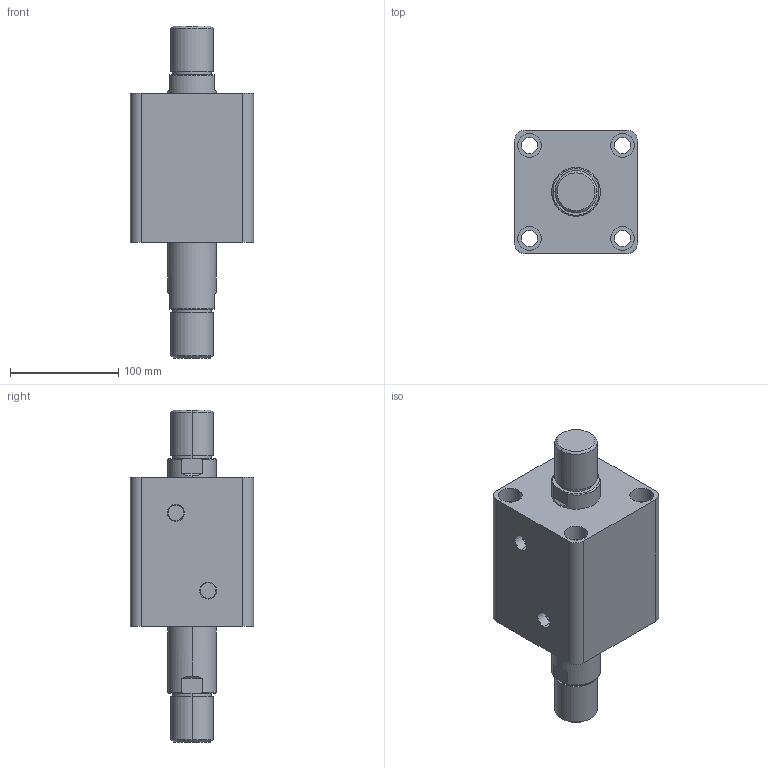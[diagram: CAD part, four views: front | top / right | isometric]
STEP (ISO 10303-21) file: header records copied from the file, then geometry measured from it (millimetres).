
FILE_DESCRIPTION (( 'STEP AP203' ), '1' );
FILE_NAME ('HTB-SW80-45W.STEP', '2019-10-07T10:22:48', ( '微软用户' ), ( '微软中国' ), 'SwSTEP 2.0', 'SolidWorks 2012', '' );
FILE_SCHEMA (( 'CONFIG_CONTROL_DESIGN' ));
Length unit declared in the file: millimetre
Products named in the file (3): HTB-SW80-45W; HTB-SW80-45W活塞杆; HTB-SW80-45掛极
Assembly tree (2 placements, depth 2):
  HTB-SW80-45W
    HTB-SW80-45掛极
    HTB-SW80-45W活塞杆
Bounding box: 114 x 114 x 307 mm (x, y, z)
Volume: 1730967.8 mm3; surface area: 201633.9 mm2
Topology: 2 solids, 2 shells, 108 faces, 240 edges, 156 vertices
Faces by surface type: cylinder 52, plane 36, torus 12, cone 8
Entity records: 3449 total; most frequent: CARTESIAN_POINT 629, DIRECTION 586, ORIENTED_EDGE 480, AXIS2_PLACEMENT_3D 249, EDGE_CURVE 240, VERTEX_POINT 156, EDGE_LOOP 138, CIRCLE 136
